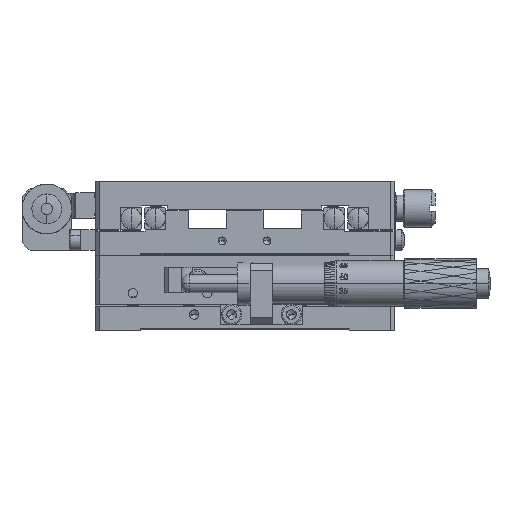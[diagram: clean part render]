
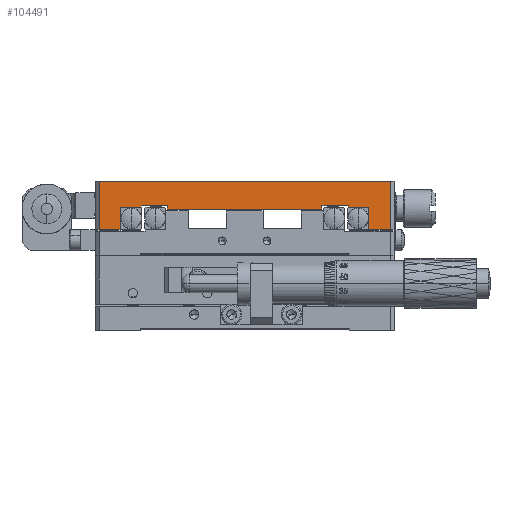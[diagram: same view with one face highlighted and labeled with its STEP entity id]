
A CAD part, top view. The second image highlights one B-rep face of the part: STEP entity #104491.
In plain terms, the highlighted planar face has unit normal (0, 0, 1).
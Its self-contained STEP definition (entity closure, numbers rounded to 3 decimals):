
#647 = LINE ( 'NONE', #36972, #7505 ) ;
#1774 = CARTESIAN_POINT ( 'NONE',  ( 73.2, 33., 40. ) ) ;
#2149 = VECTOR ( 'NONE', #162539, 1000. ) ;
#2420 = VECTOR ( 'NONE', #129335, 1000. ) ;
#5460 = LINE ( 'NONE', #35295, #194089 ) ;
#5708 = VECTOR ( 'NONE', #26742, 1000. ) ;
#6511 = VERTEX_POINT ( 'NONE', #151435 ) ;
#7505 = VECTOR ( 'NONE', #33727, 1000. ) ;
#9396 = VECTOR ( 'NONE', #38492, 1000. ) ;
#11853 = CARTESIAN_POINT ( 'NONE',  ( 1., 27., 40. ) ) ;
#12429 = CARTESIAN_POINT ( 'NONE',  ( 0., 27., 40. ) ) ;
#13719 = CARTESIAN_POINT ( 'NONE',  ( 60.7, 33.5, 40. ) ) ;
#15776 = ORIENTED_EDGE ( 'NONE', *, *, #30502, .T. ) ;
#16429 = VERTEX_POINT ( 'NONE', #190027 ) ;
#20048 = CARTESIAN_POINT ( 'NONE',  ( 0., 27., 40. ) ) ;
#21303 = EDGE_CURVE ( 'NONE', #178002, #68291, #72835, .T. ) ;
#21540 = VECTOR ( 'NONE', #124645, 1000. ) ;
#23140 = EDGE_CURVE ( 'NONE', #142883, #92925, #90825, .T. ) ;
#23895 = ORIENTED_EDGE ( 'NONE', *, *, #23140, .T. ) ;
#23971 = ORIENTED_EDGE ( 'NONE', *, *, #21303, .F. ) ;
#24069 = EDGE_CURVE ( 'NONE', #54972, #193018, #214298, .T. ) ;
#25291 = LINE ( 'NONE', #145572, #21540 ) ;
#26337 = DIRECTION ( 'NONE',  ( 0., 1., 0. ) ) ;
#26742 = DIRECTION ( 'NONE',  ( 1., 0., 0. ) ) ;
#26951 = ORIENTED_EDGE ( 'NONE', *, *, #85814, .F. ) ;
#28413 = DIRECTION ( 'NONE',  ( 1., 0., 0. ) ) ;
#30502 = EDGE_CURVE ( 'NONE', #155871, #89562, #163169, .T. ) ;
#33727 = DIRECTION ( 'NONE',  ( 0., -1., 0. ) ) ;
#35295 = CARTESIAN_POINT ( 'NONE',  ( 73.2, 27., 40. ) ) ;
#36391 = VERTEX_POINT ( 'NONE', #145764 ) ;
#36972 = CARTESIAN_POINT ( 'NONE',  ( 1., 27., 40. ) ) ;
#37504 = ORIENTED_EDGE ( 'NONE', *, *, #126166, .F. ) ;
#37689 = EDGE_LOOP ( 'NONE', ( #70180, #37504, #15776, #120391, #48385, #23895, #173277, #85231, #130852, #23971, #26951, #117912, #159078, #127697, #182396, #68951 ) ) ;
#38492 = DIRECTION ( 'NONE',  ( -1., 0., 0. ) ) ;
#43274 = CARTESIAN_POINT ( 'NONE',  ( 19.3, 32.5, 40. ) ) ;
#43282 = DIRECTION ( 'NONE',  ( 1., 0., 0. ) ) ;
#48385 = ORIENTED_EDGE ( 'NONE', *, *, #151528, .T. ) ;
#50001 = CARTESIAN_POINT ( 'NONE',  ( 67.7, 33., 40. ) ) ;
#51009 = DIRECTION ( 'NONE',  ( 1., 0., 0. ) ) ;
#54972 = VERTEX_POINT ( 'NONE', #197990 ) ;
#55810 = VECTOR ( 'NONE', #28413, 1000. ) ;
#59668 = CARTESIAN_POINT ( 'NONE',  ( 6.6, 27., 40. ) ) ;
#61661 = EDGE_CURVE ( 'NONE', #102443, #6511, #111802, .T. ) ;
#62008 = CARTESIAN_POINT ( 'NONE',  ( 6.6, 27., 40. ) ) ;
#62742 = CARTESIAN_POINT ( 'NONE',  ( 1., 40., 40. ) ) ;
#66268 = LINE ( 'NONE', #151246, #98940 ) ;
#68291 = VERTEX_POINT ( 'NONE', #50001 ) ;
#68951 = ORIENTED_EDGE ( 'NONE', *, *, #85642, .T. ) ;
#70180 = ORIENTED_EDGE ( 'NONE', *, *, #24069, .F. ) ;
#70300 = LINE ( 'NONE', #190556, #100801 ) ;
#72835 = LINE ( 'NONE', #171110, #192276 ) ;
#74219 = LINE ( 'NONE', #140462, #190641 ) ;
#76431 = CARTESIAN_POINT ( 'NONE',  ( 19.3, 32.5, 40. ) ) ;
#82689 = CARTESIAN_POINT ( 'NONE',  ( 73.2, 27., 40. ) ) ;
#84640 = VECTOR ( 'NONE', #26337, 1000. ) ;
#85231 = ORIENTED_EDGE ( 'NONE', *, *, #158726, .T. ) ;
#85642 = EDGE_CURVE ( 'NONE', #98444, #193018, #66268, .T. ) ;
#85814 = EDGE_CURVE ( 'NONE', #102443, #178002, #5460, .T. ) ;
#86894 = EDGE_CURVE ( 'NONE', #92925, #217117, #25291, .T. ) ;
#86927 = VECTOR ( 'NONE', #208852, 1000. ) ;
#87600 = EDGE_CURVE ( 'NONE', #164010, #98444, #647, .T. ) ;
#89471 = CARTESIAN_POINT ( 'NONE',  ( 12.3, 33., 40. ) ) ;
#89562 = VERTEX_POINT ( 'NONE', #162958 ) ;
#90813 = CARTESIAN_POINT ( 'NONE',  ( 67.7, 33.5, 40. ) ) ;
#90825 = LINE ( 'NONE', #76431, #5708 ) ;
#92925 = VERTEX_POINT ( 'NONE', #208079 ) ;
#94100 = LINE ( 'NONE', #143771, #165091 ) ;
#95252 = EDGE_CURVE ( 'NONE', #164010, #181207, #70300, .T. ) ;
#98444 = VERTEX_POINT ( 'NONE', #11853 ) ;
#98940 = VECTOR ( 'NONE', #99384, 1000. ) ;
#99384 = DIRECTION ( 'NONE',  ( 1., 0., 0. ) ) ;
#100801 = VECTOR ( 'NONE', #171821, 1000. ) ;
#101784 = PLANE ( 'NONE',  #196997 ) ;
#102443 = VERTEX_POINT ( 'NONE', #82689 ) ;
#102653 = DIRECTION ( 'NONE',  ( 0., 1., 0. ) ) ;
#103544 = EDGE_CURVE ( 'NONE', #89562, #36391, #109067, .T. ) ;
#103932 = DIRECTION ( 'NONE',  ( 0., 0., 1. ) ) ;
#104491 = ADVANCED_FACE ( 'NONE', ( #154693 ), #101784, .T. ) ;
#107896 = VECTOR ( 'NONE', #213171, 1000. ) ;
#109067 = LINE ( 'NONE', #180725, #55810 ) ;
#111802 = LINE ( 'NONE', #12429, #2149 ) ;
#117912 = ORIENTED_EDGE ( 'NONE', *, *, #61661, .T. ) ;
#120391 = ORIENTED_EDGE ( 'NONE', *, *, #103544, .T. ) ;
#122810 = DIRECTION ( 'NONE',  ( 0., -1., 0. ) ) ;
#124570 = CARTESIAN_POINT ( 'NONE',  ( 79., 40., 40. ) ) ;
#124645 = DIRECTION ( 'NONE',  ( 0., 1., 0. ) ) ;
#126166 = EDGE_CURVE ( 'NONE', #155871, #54972, #157696, .T. ) ;
#127666 = EDGE_CURVE ( 'NONE', #6511, #181207, #215336, .T. ) ;
#127697 = ORIENTED_EDGE ( 'NONE', *, *, #95252, .F. ) ;
#128728 = EDGE_CURVE ( 'NONE', #16429, #68291, #144824, .T. ) ;
#128973 = CARTESIAN_POINT ( 'NONE',  ( 12.3, 33.5, 40. ) ) ;
#129335 = DIRECTION ( 'NONE',  ( 0., -1., 0. ) ) ;
#130852 = ORIENTED_EDGE ( 'NONE', *, *, #128728, .T. ) ;
#140462 = CARTESIAN_POINT ( 'NONE',  ( 19.3, 33.5, 40. ) ) ;
#142330 = DIRECTION ( 'NONE',  ( -1., 0., 0. ) ) ;
#142883 = VERTEX_POINT ( 'NONE', #43274 ) ;
#143771 = CARTESIAN_POINT ( 'NONE',  ( 67.7, 33.5, 40. ) ) ;
#144824 = LINE ( 'NONE', #90813, #86927 ) ;
#145572 = CARTESIAN_POINT ( 'NONE',  ( 60.7, 33.5, 40. ) ) ;
#145764 = CARTESIAN_POINT ( 'NONE',  ( 19.3, 33.5, 40. ) ) ;
#146981 = CARTESIAN_POINT ( 'NONE',  ( 79., 27., 40. ) ) ;
#151246 = CARTESIAN_POINT ( 'NONE',  ( 0., 27., 40. ) ) ;
#151435 = CARTESIAN_POINT ( 'NONE',  ( 79., 27., 40. ) ) ;
#151528 = EDGE_CURVE ( 'NONE', #36391, #142883, #74219, .T. ) ;
#154693 = FACE_OUTER_BOUND ( 'NONE', #37689, .T. ) ;
#155871 = VERTEX_POINT ( 'NONE', #89471 ) ;
#157696 = LINE ( 'NONE', #209513, #9396 ) ;
#158726 = EDGE_CURVE ( 'NONE', #217117, #16429, #94100, .T. ) ;
#159078 = ORIENTED_EDGE ( 'NONE', *, *, #127666, .T. ) ;
#162539 = DIRECTION ( 'NONE',  ( 1., 0., 0. ) ) ;
#162958 = CARTESIAN_POINT ( 'NONE',  ( 12.3, 33.5, 40. ) ) ;
#163169 = LINE ( 'NONE', #128973, #84640 ) ;
#164010 = VERTEX_POINT ( 'NONE', #62742 ) ;
#165091 = VECTOR ( 'NONE', #43282, 1000. ) ;
#171110 = CARTESIAN_POINT ( 'NONE',  ( 67.7, 33., 40. ) ) ;
#171821 = DIRECTION ( 'NONE',  ( 1., 0., 0. ) ) ;
#173277 = ORIENTED_EDGE ( 'NONE', *, *, #86894, .T. ) ;
#178002 = VERTEX_POINT ( 'NONE', #1774 ) ;
#180725 = CARTESIAN_POINT ( 'NONE',  ( 67.7, 33.5, 40. ) ) ;
#181207 = VERTEX_POINT ( 'NONE', #124570 ) ;
#182396 = ORIENTED_EDGE ( 'NONE', *, *, #87600, .T. ) ;
#190027 = CARTESIAN_POINT ( 'NONE',  ( 67.7, 33.5, 40. ) ) ;
#190556 = CARTESIAN_POINT ( 'NONE',  ( 0., 40., 40. ) ) ;
#190641 = VECTOR ( 'NONE', #122810, 1000. ) ;
#192276 = VECTOR ( 'NONE', #142330, 1000. ) ;
#193018 = VERTEX_POINT ( 'NONE', #59668 ) ;
#194089 = VECTOR ( 'NONE', #102653, 1000. ) ;
#196997 = AXIS2_PLACEMENT_3D ( 'NONE', #20048, #103932, #51009 ) ;
#197990 = CARTESIAN_POINT ( 'NONE',  ( 6.6, 33., 40. ) ) ;
#208079 = CARTESIAN_POINT ( 'NONE',  ( 60.7, 32.5, 40. ) ) ;
#208852 = DIRECTION ( 'NONE',  ( 0., -1., 0. ) ) ;
#209513 = CARTESIAN_POINT ( 'NONE',  ( 12.3, 33., 40. ) ) ;
#213171 = DIRECTION ( 'NONE',  ( 0., 1., 0. ) ) ;
#214298 = LINE ( 'NONE', #62008, #2420 ) ;
#215336 = LINE ( 'NONE', #146981, #107896 ) ;
#217117 = VERTEX_POINT ( 'NONE', #13719 ) ;
